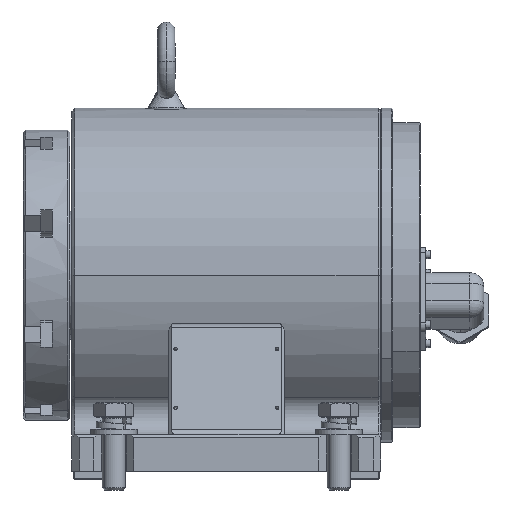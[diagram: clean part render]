
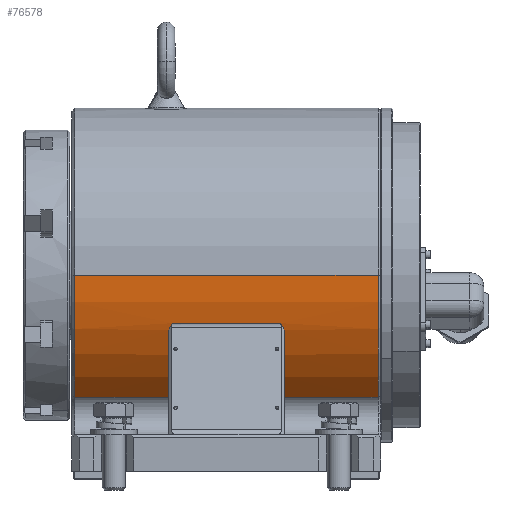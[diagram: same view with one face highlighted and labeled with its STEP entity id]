
A CAD part, left-side view. The second image highlights one B-rep face of the part: STEP entity #76578.
In plain terms, the highlighted cylindrical face has radius 115 mm (diameter 230 mm), a partial arc.
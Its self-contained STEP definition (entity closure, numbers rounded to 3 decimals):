
#161 = ORIENTED_EDGE ( 'NONE', *, *, #48892, .F. ) ;
#1893 = DIRECTION ( 'NONE',  ( 0., -1., 0. ) ) ;
#3363 = DIRECTION ( 'NONE',  ( 0., 1., 0. ) ) ;
#3413 = EDGE_CURVE ( 'NONE', #81407, #98371, #109183, .T. ) ;
#4217 = CARTESIAN_POINT ( 'NONE',  ( -108.595, -66.5, -37.843 ) ) ;
#4246 = AXIS2_PLACEMENT_3D ( 'NONE', #49403, #3363, #40322 ) ;
#4834 = EDGE_CURVE ( 'NONE', #112728, #116050, #50941, .T. ) ;
#4935 = CARTESIAN_POINT ( 'NONE',  ( -115., -2., 0. ) ) ;
#6151 = CARTESIAN_POINT ( 'NONE',  ( -110.151, -69.246, -33.041 ) ) ;
#7233 = CARTESIAN_POINT ( 'NONE',  ( -78.502, -211., -84.038 ) ) ;
#7400 = ORIENTED_EDGE ( 'NONE', *, *, #32337, .T. ) ;
#9620 = CARTESIAN_POINT ( 'NONE',  ( -109.149, -145.554, -36.254 ) ) ;
#9749 = CARTESIAN_POINT ( 'NONE',  ( 0., -2., 0. ) ) ;
#11869 = CARTESIAN_POINT ( 'NONE',  ( 0., -146.5, 0. ) ) ;
#12453 = DIRECTION ( 'NONE',  ( 0., -1., 0. ) ) ;
#16023 = AXIS2_PLACEMENT_3D ( 'NONE', #80872, #46330, #92349 ) ;
#16969 = EDGE_CURVE ( 'NONE', #78813, #17428, #109321, .T. ) ;
#17428 = VERTEX_POINT ( 'NONE', #83635 ) ;
#20462 = CARTESIAN_POINT ( 'NONE',  ( 0., -211., 0. ) ) ;
#20773 = CARTESIAN_POINT ( 'NONE',  ( -115., -213., 0. ) ) ;
#22713 = CARTESIAN_POINT ( 'NONE',  ( -78.502, -66.5, -84.038 ) ) ;
#26490 = EDGE_CURVE ( 'NONE', #17428, #42379, #103667, .T. ) ;
#26797 = EDGE_CURVE ( 'NONE', #116050, #100425, #100192, .T. ) ;
#27207 = CARTESIAN_POINT ( 'NONE',  ( -109.668, -144.638, -34.653 ) ) ;
#28951 = DIRECTION ( 'NONE',  ( 0., 1., 0. ) ) ;
#31262 = CARTESIAN_POINT ( 'NONE',  ( -110.151, -69.246, -33.041 ) ) ;
#31309 = LINE ( 'NONE', #50689, #90771 ) ;
#32337 = EDGE_CURVE ( 'NONE', #112728, #67827, #104845, .T. ) ;
#33202 = EDGE_CURVE ( 'NONE', #42379, #100425, #43012, .T. ) ;
#37248 = AXIS2_PLACEMENT_3D ( 'NONE', #9749, #1893, #83677 ) ;
#38117 = DIRECTION ( 'NONE',  ( 0., 1., 0. ) ) ;
#40322 = DIRECTION ( 'NONE',  ( -1., 0., 0. ) ) ;
#41273 = CARTESIAN_POINT ( 'NONE',  ( -108.595, -146.5, -37.843 ) ) ;
#42379 = VERTEX_POINT ( 'NONE', #4935 ) ;
#43012 = CIRCLE ( 'NONE', #37248, 115. ) ;
#43289 = CARTESIAN_POINT ( 'NONE',  ( -78.502, -213., -84.038 ) ) ;
#45121 = CARTESIAN_POINT ( 'NONE',  ( -78.502, -2., -84.038 ) ) ;
#46330 = DIRECTION ( 'NONE',  ( 0., -1., 0. ) ) ;
#46414 = ORIENTED_EDGE ( 'NONE', *, *, #26797, .F. ) ;
#48731 = EDGE_CURVE ( 'NONE', #69669, #81407, #113382, .T. ) ;
#48892 = EDGE_CURVE ( 'NONE', #78813, #98371, #75654, .T. ) ;
#49403 = CARTESIAN_POINT ( 'NONE',  ( 0., -213., 0. ) ) ;
#49515 = DIRECTION ( 'NONE',  ( 1., 0., 0. ) ) ;
#50657 = DIRECTION ( 'NONE',  ( -1., 0., 0. ) ) ;
#50689 = CARTESIAN_POINT ( 'NONE',  ( -110.151, -213., -33.041 ) ) ;
#50941 = CIRCLE ( 'NONE', #16023, 115. ) ;
#58211 = ORIENTED_EDGE ( 'NONE', *, *, #3413, .T. ) ;
#58295 = ORIENTED_EDGE ( 'NONE', *, *, #26490, .T. ) ;
#63098 = CARTESIAN_POINT ( 'NONE',  ( -109.149, -67.446, -36.254 ) ) ;
#67827 = VERTEX_POINT ( 'NONE', #31262 ) ;
#68556 = AXIS2_PLACEMENT_3D ( 'NONE', #11869, #12453, #50657 ) ;
#69669 = VERTEX_POINT ( 'NONE', #108137 ) ;
#75043 = CARTESIAN_POINT ( 'NONE',  ( -78.502, -213., -84.038 ) ) ;
#75654 = LINE ( 'NONE', #75043, #116845 ) ;
#76578 = ADVANCED_FACE ( 'NONE', ( #96625 ), #87543, .T. ) ;
#78813 = VERTEX_POINT ( 'NONE', #7233 ) ;
#80872 = CARTESIAN_POINT ( 'NONE',  ( 0., -66.5, 0. ) ) ;
#81407 = VERTEX_POINT ( 'NONE', #41273 ) ;
#82938 = CARTESIAN_POINT ( 'NONE',  ( -110.151, -143.754, -33.041 ) ) ;
#83635 = CARTESIAN_POINT ( 'NONE',  ( -115., -211., 0. ) ) ;
#83677 = DIRECTION ( 'NONE',  ( 1., 0., 0. ) ) ;
#86713 = EDGE_LOOP ( 'NONE', ( #108516, #58295, #90356, #46414, #113606, #7400, #115693, #105674, #58211, #161 ) ) ;
#87041 = DIRECTION ( 'NONE',  ( 0., -1., 0. ) ) ;
#87543 = CYLINDRICAL_SURFACE ( 'NONE', #4246, 115. ) ;
#90356 = ORIENTED_EDGE ( 'NONE', *, *, #33202, .T. ) ;
#90542 = DIRECTION ( 'NONE',  ( 0., 1., 0. ) ) ;
#90771 = VECTOR ( 'NONE', #87041, 1000. ) ;
#90934 = CARTESIAN_POINT ( 'NONE',  ( -109.668, -68.362, -34.653 ) ) ;
#92349 = DIRECTION ( 'NONE',  ( -1., 0., 0. ) ) ;
#94145 = AXIS2_PLACEMENT_3D ( 'NONE', #20462, #28951, #49515 ) ;
#94639 = DIRECTION ( 'NONE',  ( 0., 1., 0. ) ) ;
#96625 = FACE_OUTER_BOUND ( 'NONE', #86713, .T. ) ;
#98371 = VERTEX_POINT ( 'NONE', #114075 ) ;
#100192 = LINE ( 'NONE', #43289, #116196 ) ;
#100425 = VERTEX_POINT ( 'NONE', #45121 ) ;
#101266 = EDGE_CURVE ( 'NONE', #67827, #69669, #31309, .T. ) ;
#103667 = LINE ( 'NONE', #20773, #108296 ) ;
#104845 =( BOUNDED_CURVE ( )  B_SPLINE_CURVE ( 3, ( #107898, #63098, #90934, #6151 ),
 .UNSPECIFIED., .F., .F. ) 
 B_SPLINE_CURVE_WITH_KNOTS ( ( 4, 4 ),
 ( 2.544, 2.588 ),
 .UNSPECIFIED. ) 
 CURVE ( )  GEOMETRIC_REPRESENTATION_ITEM ( )  RATIONAL_B_SPLINE_CURVE ( ( 1., 1., 1., 1. ) ) 
 REPRESENTATION_ITEM ( '' )  );
#105674 = ORIENTED_EDGE ( 'NONE', *, *, #48731, .T. ) ;
#107898 = CARTESIAN_POINT ( 'NONE',  ( -108.595, -66.5, -37.843 ) ) ;
#108137 = CARTESIAN_POINT ( 'NONE',  ( -110.151, -143.754, -33.041 ) ) ;
#108296 = VECTOR ( 'NONE', #94639, 1000. ) ;
#108516 = ORIENTED_EDGE ( 'NONE', *, *, #16969, .T. ) ;
#109183 = CIRCLE ( 'NONE', #68556, 115. ) ;
#109321 = CIRCLE ( 'NONE', #94145, 115. ) ;
#112728 = VERTEX_POINT ( 'NONE', #4217 ) ;
#113382 =( BOUNDED_CURVE ( )  B_SPLINE_CURVE ( 3, ( #82938, #27207, #9620, #118688 ),
 .UNSPECIFIED., .F., .F. ) 
 B_SPLINE_CURVE_WITH_KNOTS ( ( 4, 4 ),
 ( 0.553, 0.597 ),
 .UNSPECIFIED. ) 
 CURVE ( )  GEOMETRIC_REPRESENTATION_ITEM ( )  RATIONAL_B_SPLINE_CURVE ( ( 1., 1., 1., 1. ) ) 
 REPRESENTATION_ITEM ( '' )  );
#113606 = ORIENTED_EDGE ( 'NONE', *, *, #4834, .F. ) ;
#114075 = CARTESIAN_POINT ( 'NONE',  ( -78.502, -146.5, -84.038 ) ) ;
#115693 = ORIENTED_EDGE ( 'NONE', *, *, #101266, .T. ) ;
#116050 = VERTEX_POINT ( 'NONE', #22713 ) ;
#116196 = VECTOR ( 'NONE', #90542, 1000. ) ;
#116845 = VECTOR ( 'NONE', #38117, 1000. ) ;
#118688 = CARTESIAN_POINT ( 'NONE',  ( -108.595, -146.5, -37.843 ) ) ;
